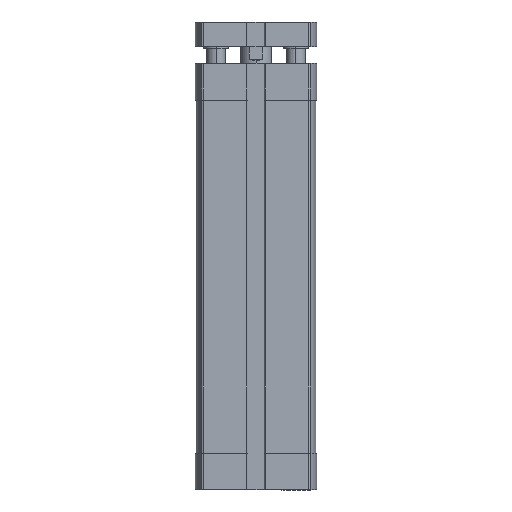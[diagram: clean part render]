
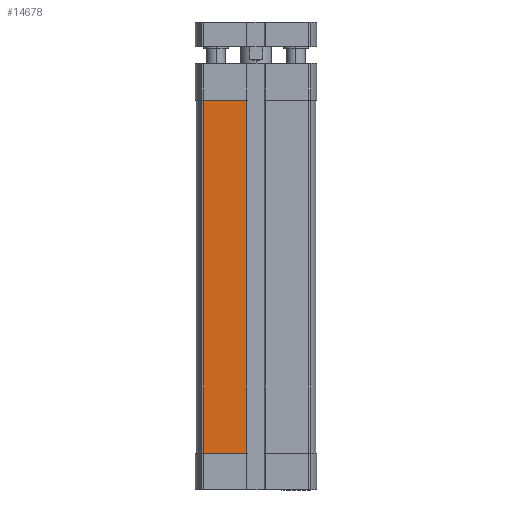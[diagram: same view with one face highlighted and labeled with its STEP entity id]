
A CAD part, front view. The second image highlights one B-rep face of the part: STEP entity #14678.
In plain terms, the highlighted planar face has unit normal (0, -1, 0) as drawn and (-1, 0, 0) by its records, which use the part's own axes.
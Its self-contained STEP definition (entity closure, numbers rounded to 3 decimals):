
#115 = EDGE_CURVE ( 'NONE', #10448, #17572, #2929, .T. ) ;
#472 = CARTESIAN_POINT ( 'NONE',  ( -19.5, 17.091, -12. ) ) ;
#1436 = AXIS2_PLACEMENT_3D ( 'NONE', #17650, #7386, #17734 ) ;
#1766 = CARTESIAN_POINT ( 'NONE',  ( -19.5, 3.1, -12. ) ) ;
#1969 = ORIENTED_EDGE ( 'NONE', *, *, #12744, .T. ) ;
#2264 = DIRECTION ( 'NONE',  ( 0., 0., 1. ) ) ;
#2929 = LINE ( 'NONE', #12028, #11227 ) ;
#3044 = CARTESIAN_POINT ( 'NONE',  ( -19.5, 3.1, -127. ) ) ;
#3138 = ORIENTED_EDGE ( 'NONE', *, *, #12057, .T. ) ;
#5069 = DIRECTION ( 'NONE',  ( 0., 1., 0. ) ) ;
#5109 = VERTEX_POINT ( 'NONE', #12291 ) ;
#5383 = VECTOR ( 'NONE', #2264, 1000. ) ;
#5518 = FACE_OUTER_BOUND ( 'NONE', #6092, .T. ) ;
#6092 = EDGE_LOOP ( 'NONE', ( #3138, #1969, #16545, #6738 ) ) ;
#6738 = ORIENTED_EDGE ( 'NONE', *, *, #16843, .T. ) ;
#7386 = DIRECTION ( 'NONE',  ( -1., 0., 0. ) ) ;
#10015 = LINE ( 'NONE', #12529, #13950 ) ;
#10448 = VERTEX_POINT ( 'NONE', #1766 ) ;
#11227 = VECTOR ( 'NONE', #5069, 1000. ) ;
#12028 = CARTESIAN_POINT ( 'NONE',  ( -19.5, 0., -12. ) ) ;
#12057 = EDGE_CURVE ( 'NONE', #5109, #13050, #10015, .T. ) ;
#12291 = CARTESIAN_POINT ( 'NONE',  ( -19.5, 17.091, -127. ) ) ;
#12529 = CARTESIAN_POINT ( 'NONE',  ( -19.5, 17.091, -127. ) ) ;
#12744 = EDGE_CURVE ( 'NONE', #13050, #10448, #17139, .T. ) ;
#13050 = VERTEX_POINT ( 'NONE', #3044 ) ;
#13262 = PLANE ( 'NONE',  #1436 ) ;
#13504 = LINE ( 'NONE', #16885, #16954 ) ;
#13950 = VECTOR ( 'NONE', #16919, 1000. ) ;
#14678 = ADVANCED_FACE ( 'NONE', ( #5518 ), #13262, .T. ) ;
#16545 = ORIENTED_EDGE ( 'NONE', *, *, #115, .T. ) ;
#16843 = EDGE_CURVE ( 'NONE', #17572, #5109, #13504, .T. ) ;
#16885 = CARTESIAN_POINT ( 'NONE',  ( -19.5, 17.091, -127. ) ) ;
#16919 = DIRECTION ( 'NONE',  ( 0., -1., 0. ) ) ;
#16954 = VECTOR ( 'NONE', #18457, 1000. ) ;
#17139 = LINE ( 'NONE', #18487, #5383 ) ;
#17572 = VERTEX_POINT ( 'NONE', #472 ) ;
#17650 = CARTESIAN_POINT ( 'NONE',  ( -19.5, 17.091, -127. ) ) ;
#17734 = DIRECTION ( 'NONE',  ( 0., 0., 1. ) ) ;
#18457 = DIRECTION ( 'NONE',  ( 0., 0., -1. ) ) ;
#18487 = CARTESIAN_POINT ( 'NONE',  ( -19.5, 3.1, -127. ) ) ;
